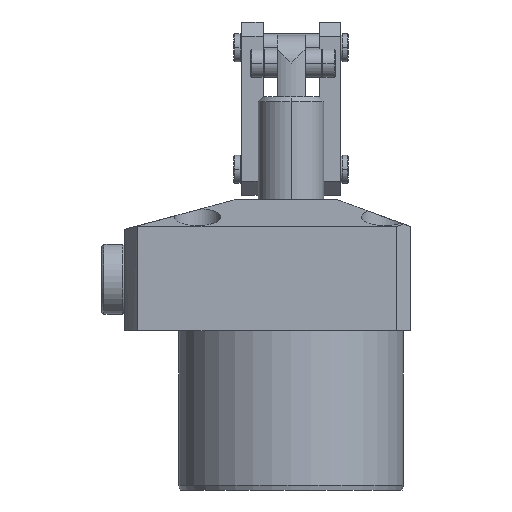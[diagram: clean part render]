
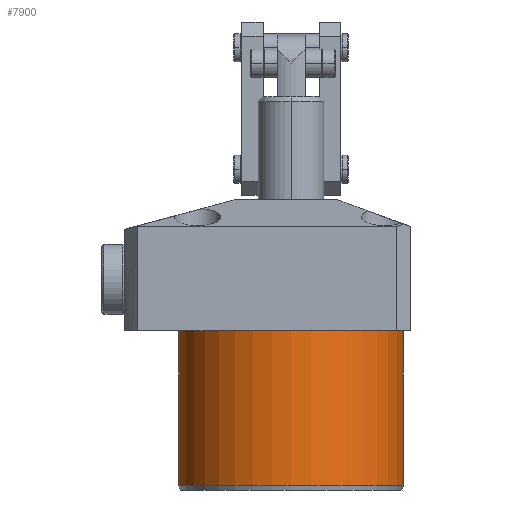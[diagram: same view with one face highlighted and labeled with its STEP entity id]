
A CAD part, front view. The second image highlights one B-rep face of the part: STEP entity #7900.
In plain terms, the highlighted cylindrical face has radius 24 mm (diameter 48 mm), a partial arc.
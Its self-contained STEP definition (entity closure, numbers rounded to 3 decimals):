
#277 = CARTESIAN_POINT ( 'NONE',  ( 0., 0., -34. ) ) ;
#301 = CYLINDRICAL_SURFACE ( 'NONE', #12858, 24. ) ;
#638 = CARTESIAN_POINT ( 'NONE',  ( 24., 0., -33. ) ) ;
#724 = FACE_OUTER_BOUND ( 'NONE', #6406, .T. ) ;
#727 = VERTEX_POINT ( 'NONE', #2765 ) ;
#767 = ORIENTED_EDGE ( 'NONE', *, *, #14972, .T. ) ;
#2154 = CARTESIAN_POINT ( 'NONE',  ( 0., 0., -33. ) ) ;
#2319 = CIRCLE ( 'NONE', #8593, 24. ) ;
#2765 = CARTESIAN_POINT ( 'NONE',  ( 24., 0., 0. ) ) ;
#3159 = ORIENTED_EDGE ( 'NONE', *, *, #11940, .T. ) ;
#3267 = CIRCLE ( 'NONE', #14781, 24. ) ;
#3494 = DIRECTION ( 'NONE',  ( -1., 0., 0. ) ) ;
#4109 = CARTESIAN_POINT ( 'NONE',  ( 24., 0., -34. ) ) ;
#4233 = EDGE_CURVE ( 'NONE', #13553, #8372, #4541, .T. ) ;
#4541 = LINE ( 'NONE', #12255, #14934 ) ;
#4752 = CARTESIAN_POINT ( 'NONE',  ( 0., 0., 0. ) ) ;
#6110 = LINE ( 'NONE', #4109, #6524 ) ;
#6128 = DIRECTION ( 'NONE',  ( 1., 0., 0. ) ) ;
#6406 = EDGE_LOOP ( 'NONE', ( #13537, #3159, #767, #9821 ) ) ;
#6524 = VECTOR ( 'NONE', #6850, 1000. ) ;
#6688 = EDGE_CURVE ( 'NONE', #727, #8372, #3267, .T. ) ;
#6850 = DIRECTION ( 'NONE',  ( 0., 0., 1. ) ) ;
#7205 = CARTESIAN_POINT ( 'NONE',  ( -24., 0., -33. ) ) ;
#7900 = ADVANCED_FACE ( 'NONE', ( #724 ), #301, .T. ) ;
#8372 = VERTEX_POINT ( 'NONE', #9931 ) ;
#8593 = AXIS2_PLACEMENT_3D ( 'NONE', #2154, #11596, #3494 ) ;
#9725 = DIRECTION ( 'NONE',  ( 1., 0., 0. ) ) ;
#9821 = ORIENTED_EDGE ( 'NONE', *, *, #6688, .T. ) ;
#9931 = CARTESIAN_POINT ( 'NONE',  ( -24., 0., 0. ) ) ;
#11029 = DIRECTION ( 'NONE',  ( 0., 0., 1. ) ) ;
#11596 = DIRECTION ( 'NONE',  ( 0., 0., 1. ) ) ;
#11940 = EDGE_CURVE ( 'NONE', #13553, #15241, #2319, .T. ) ;
#12255 = CARTESIAN_POINT ( 'NONE',  ( -24., 0., -34. ) ) ;
#12858 = AXIS2_PLACEMENT_3D ( 'NONE', #277, #13765, #9725 ) ;
#13537 = ORIENTED_EDGE ( 'NONE', *, *, #4233, .F. ) ;
#13553 = VERTEX_POINT ( 'NONE', #7205 ) ;
#13765 = DIRECTION ( 'NONE',  ( 0., 0., 1. ) ) ;
#14157 = DIRECTION ( 'NONE',  ( 0., 0., -1. ) ) ;
#14781 = AXIS2_PLACEMENT_3D ( 'NONE', #4752, #14157, #6128 ) ;
#14934 = VECTOR ( 'NONE', #11029, 1000. ) ;
#14972 = EDGE_CURVE ( 'NONE', #15241, #727, #6110, .T. ) ;
#15241 = VERTEX_POINT ( 'NONE', #638 ) ;
